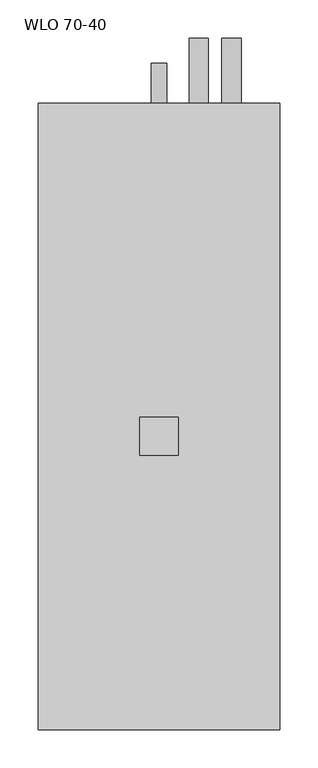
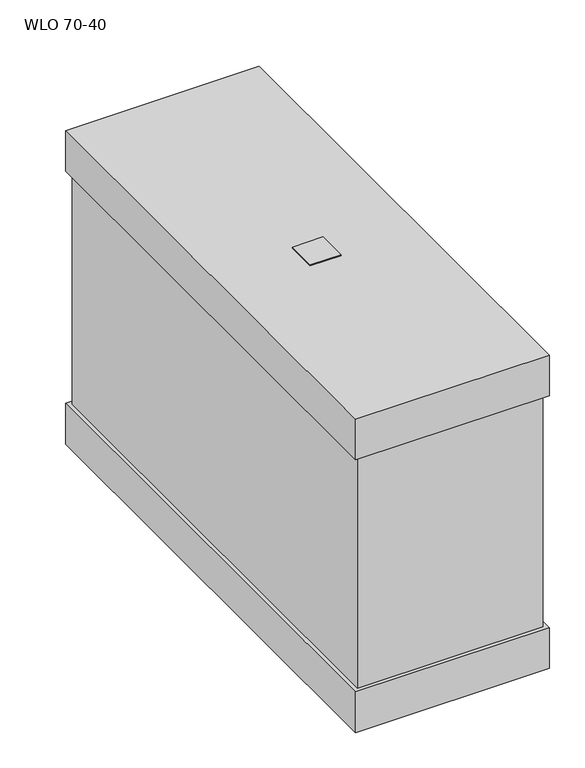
"""IFC4 building model written with IfcOpenShell, lengths in millimetres: proxy geometry, KORF_Воздухоохладитель_Водяной_WLO_Правый : WLO 70-40."""

from ifc_helpers import new_model, si_unit, point, frame, frame_2d, origin, place, context, project, spatial, polyline, circle_curve, trimmed, segment, composite_curve, outline, extrude, faceted_brep, source, transform, mapped, element, save


def wlo_70_40_cb6bbf7d(model_context):
    return source(origin(), model_context, "Body", "SolidModel", [
        extrude(outline(polyline([(133.0, -25.0), (133.0, 25.0), (183.0, 25.0), (183.0, -25.0), (133.0, -25.0)])), frame((0.0, 0.0, 270.0), z_axis=(0.0, 0.0, 1.0), x_axis=(1.0, 0.0, 0.0)), (0.0, 0.0, 1.0), 2.0),
        faceted_brep([(316.0, -384.0, 270.0), (316.0, -384.0, 200.0), (316.0, 436.0, 200.0), (316.0, 436.0, 270.0), (316.0, -384.0, -200.0), (316.0, -384.0, -270.0), (316.0, 436.0, -270.0), (316.0, 436.0, -200.0), (0.0, -384.0, 270.0), (0.0, 436.0, 270.0), (0.0, 436.0, 200.0), (0.0, -384.0, 200.0), (0.0, -384.0, -200.0), (0.0, 436.0, -200.0), (0.0, 436.0, -270.0), (0.0, -384.0, -270.0), (7.0, -377.0, 200.0), (309.0, -377.0, 200.0), (309.0, -350.0, 200.0), (309.0, 350.0, 200.0), (309.0, 429.0, 200.0), (7.0, 429.0, 200.0), (7.0, 350.0, 200.0), (7.0, -350.0, 200.0), (309.0, -377.0, -200.0), (7.0, -377.0, -200.0), (7.0, -350.0, -200.0), (7.0, 350.0, -200.0), (7.0, 429.0, -200.0), (309.0, 429.0, -200.0), (309.0, 350.0, -200.0), (309.0, -350.0, -200.0)], [[[0, 1, 2, 3]], [[4, 5, 6, 7]], [[8, 9, 10, 11]], [[12, 13, 14, 15]], [[1, 0, 8, 11]], [[2, 1, 11, 10], [16, 17, 18, 19, 20, 21, 22, 23]], [[3, 2, 10, 9]], [[0, 3, 9, 8]], [[5, 4, 12, 15]], [[6, 5, 15, 14]], [[7, 6, 14, 13]], [[4, 7, 13, 12], [24, 25, 26, 27, 28, 29, 30, 31]], [[17, 24, 31, 30, 29, 20, 19, 18]], [[21, 28, 27, 26, 25, 16, 23, 22]], [[24, 17, 16, 25]], [[20, 29, 28, 21]]]),
        extrude(outline(composite_curve([segment(trimmed(circle_curve(frame_2d((50.0, 253.0)), 12.5), [point((50.0, 240.5))], [point((50.0, 265.5))], False, "CARTESIAN"), True, "CONTINUOUS"), segment(trimmed(circle_curve(frame_2d((50.0, 253.0)), 12.5), [point((50.0, 265.5))], [point((50.0, 240.5))], False, "CARTESIAN"), True, "CONTINUOUS")], self_intersect=False)), frame((0.0, 429.0, 0.0), z_axis=(0.0, 1.0, 0.0), x_axis=(0.0, 0.0, 1.0)), (0.0, 0.0, 1.0), 92.0),
        extrude(outline(composite_curve([segment(trimmed(circle_curve(frame_2d((-50.0, 210.0)), 12.5), [point((-50.0, 197.5))], [point((-50.0, 222.5))], False, "CARTESIAN"), True, "CONTINUOUS"), segment(trimmed(circle_curve(frame_2d((-50.0, 210.0)), 12.5), [point((-50.0, 222.5))], [point((-50.0, 197.5))], False, "CARTESIAN"), True, "CONTINUOUS")], self_intersect=False)), frame((0.0, 429.0, 0.0), z_axis=(0.0, 1.0, 0.0), x_axis=(0.0, 0.0, 1.0)), (0.0, 0.0, 1.0), 92.0),
        extrude(outline(composite_curve([segment(trimmed(circle_curve(frame_2d((-252.0, 158.0)), 10.0), [point((-252.0, 148.0))], [point((-252.0, 168.0))], False, "CARTESIAN"), True, "CONTINUOUS"), segment(trimmed(circle_curve(frame_2d((-252.0, 158.0)), 10.0), [point((-252.0, 168.0))], [point((-252.0, 148.0))], False, "CARTESIAN"), True, "CONTINUOUS")], self_intersect=False)), frame((0.0, 436.0, 0.0), z_axis=(0.0, 1.0, 0.0), x_axis=(0.0, 0.0, 1.0)), (0.0, 0.0, 1.0), 52.0),
    ])


if __name__ == "__main__":
    model = new_model("IFC4")
    model_context = context("Model", 3, world=origin())
    ifc_project = project(units=[si_unit("LENGTHUNIT", "METRE", prefix="MILLI")], contexts=[model_context])
    site = spatial("IfcSite", under=ifc_project)
    building = spatial("IfcBuilding", under=site)
    placement = place(None, origin())
    wlo_70_40_shape = wlo_70_40_cb6bbf7d(model_context)
    element("IfcBuildingElementProxy", 1, Name="KORF_Воздухоохладитель_Водяной_WLO_Правый : WLO 70-40", ObjectType="KORF_Воздухоохладитель_Водяной_WLO_Правый : WLO 70-40", at=placement, inside=building, context=model_context, shape_type="MappedRepresentation", body=[
        mapped(wlo_70_40_shape, transform((0.0, 0.0, 0.0), x_axis=(1.0, 0.0, 0.0), y_axis=(0.0, 1.0, 0.0), z_axis=(0.0, 0.0, 1.0))),
    ])
    save(model, "model.ifc")
